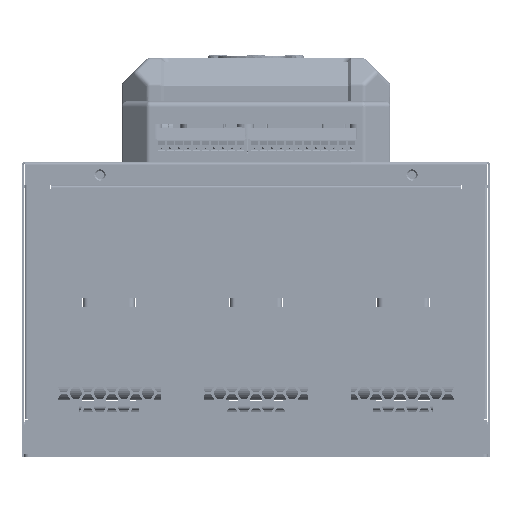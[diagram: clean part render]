
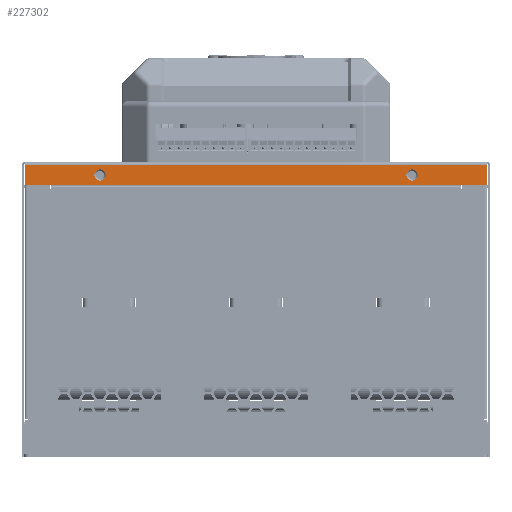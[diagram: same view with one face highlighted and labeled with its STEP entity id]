
A CAD part, front view. The second image highlights one B-rep face of the part: STEP entity #227302.
In plain terms, the highlighted planar face has unit normal (0, -1, 0).
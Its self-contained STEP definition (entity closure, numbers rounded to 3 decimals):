
#2345 = DIRECTION ( 'NONE',  ( 0., -1., 0. ) ) ;
#6429 = VERTEX_POINT ( 'NONE', #303719 ) ;
#41944 = AXIS2_PLACEMENT_3D ( 'NONE', #292692, #2345, #77261 ) ;
#45480 = VERTEX_POINT ( 'NONE', #100689 ) ;
#45824 = FACE_BOUND ( 'NONE', #190137, .T. ) ;
#50425 = CARTESIAN_POINT ( 'NONE',  ( 0., -195., 0. ) ) ;
#59933 = VECTOR ( 'NONE', #268113, 1000. ) ;
#61914 = VERTEX_POINT ( 'NONE', #252880 ) ;
#64822 = VECTOR ( 'NONE', #74926, 1000. ) ;
#66117 = DIRECTION ( 'NONE',  ( 1., 0., 0. ) ) ;
#69574 = EDGE_CURVE ( 'NONE', #45480, #95457, #188035, .T. ) ;
#69857 = CARTESIAN_POINT ( 'NONE',  ( -133.093, -195., -13.5 ) ) ;
#70697 = DIRECTION ( 'NONE',  ( 0., -1., 0. ) ) ;
#72935 = EDGE_CURVE ( 'NONE', #288949, #268656, #302584, .T. ) ;
#74926 = DIRECTION ( 'NONE',  ( 0., 0., -1. ) ) ;
#77261 = DIRECTION ( 'NONE',  ( 1., 0., 0. ) ) ;
#80010 = CARTESIAN_POINT ( 'NONE',  ( -133.093, -195., 0. ) ) ;
#92784 = CARTESIAN_POINT ( 'NONE',  ( 93.25, -195., -7.5 ) ) ;
#95187 = ORIENTED_EDGE ( 'NONE', *, *, #209465, .F. ) ;
#95457 = VERTEX_POINT ( 'NONE', #131464 ) ;
#96379 = ORIENTED_EDGE ( 'NONE', *, *, #304822, .F. ) ;
#100689 = CARTESIAN_POINT ( 'NONE',  ( -86.75, -195., -7.5 ) ) ;
#112032 = EDGE_CURVE ( 'NONE', #239121, #6429, #223660, .T. ) ;
#113095 = AXIS2_PLACEMENT_3D ( 'NONE', #154935, #228298, #131477 ) ;
#114536 = AXIS2_PLACEMENT_3D ( 'NONE', #50425, #264309, #240874 ) ;
#120228 = CARTESIAN_POINT ( 'NONE',  ( 133.093, -195., 0. ) ) ;
#130639 = CARTESIAN_POINT ( 'NONE',  ( 86.75, -195., -7.5 ) ) ;
#131464 = CARTESIAN_POINT ( 'NONE',  ( -93.25, -195., -7.5 ) ) ;
#131477 = DIRECTION ( 'NONE',  ( 1., 0., 0. ) ) ;
#154935 = CARTESIAN_POINT ( 'NONE',  ( -90., -195., -7.5 ) ) ;
#156875 = DIRECTION ( 'NONE',  ( 1., 0., 0. ) ) ;
#167144 = LINE ( 'NONE', #120228, #64822 ) ;
#167986 = AXIS2_PLACEMENT_3D ( 'NONE', #208221, #70697, #66117 ) ;
#173492 = CARTESIAN_POINT ( 'NONE',  ( -90., -195., -7.5 ) ) ;
#180333 = CARTESIAN_POINT ( 'NONE',  ( -133.3, -195., -1.7 ) ) ;
#187972 = FACE_BOUND ( 'NONE', #270937, .T. ) ;
#188035 = CIRCLE ( 'NONE', #113095, 3.25 ) ;
#188302 = ORIENTED_EDGE ( 'NONE', *, *, #216834, .F. ) ;
#189292 = EDGE_CURVE ( 'NONE', #61914, #239121, #218209, .T. ) ;
#190137 = EDGE_LOOP ( 'NONE', ( #206887, #188302 ) ) ;
#191519 = CIRCLE ( 'NONE', #41944, 3.25 ) ;
#204115 = ORIENTED_EDGE ( 'NONE', *, *, #205764, .F. ) ;
#205764 = EDGE_CURVE ( 'NONE', #6429, #227926, #225608, .T. ) ;
#206887 = ORIENTED_EDGE ( 'NONE', *, *, #69574, .F. ) ;
#208221 = CARTESIAN_POINT ( 'NONE',  ( 90., -195., -7.5 ) ) ;
#209465 = EDGE_CURVE ( 'NONE', #227926, #61914, #167144, .T. ) ;
#216834 = EDGE_CURVE ( 'NONE', #95457, #45480, #246155, .T. ) ;
#218209 = LINE ( 'NONE', #291531, #59933 ) ;
#219292 = VECTOR ( 'NONE', #156875, 1000. ) ;
#220566 = DIRECTION ( 'NONE',  ( 0., 0., 1. ) ) ;
#221017 = ORIENTED_EDGE ( 'NONE', *, *, #189292, .F. ) ;
#223660 = LINE ( 'NONE', #80010, #306095 ) ;
#225608 = LINE ( 'NONE', #180333, #219292 ) ;
#227302 = ADVANCED_FACE ( 'NONE', ( #239346, #45824, #187972 ), #306571, .F. ) ;
#227900 = CARTESIAN_POINT ( 'NONE',  ( 133.093, -195., -1.7 ) ) ;
#227926 = VERTEX_POINT ( 'NONE', #227900 ) ;
#228298 = DIRECTION ( 'NONE',  ( 0., -1., 0. ) ) ;
#239121 = VERTEX_POINT ( 'NONE', #69857 ) ;
#239346 = FACE_OUTER_BOUND ( 'NONE', #284197, .T. ) ;
#240874 = DIRECTION ( 'NONE',  ( 0., 0., 1. ) ) ;
#246155 = CIRCLE ( 'NONE', #301686, 3.25 ) ;
#252880 = CARTESIAN_POINT ( 'NONE',  ( 133.093, -195., -13.5 ) ) ;
#264309 = DIRECTION ( 'NONE',  ( 0., 1., 0. ) ) ;
#265126 = ORIENTED_EDGE ( 'NONE', *, *, #112032, .F. ) ;
#268113 = DIRECTION ( 'NONE',  ( -1., 0., 0. ) ) ;
#268656 = VERTEX_POINT ( 'NONE', #92784 ) ;
#270937 = EDGE_LOOP ( 'NONE', ( #96379, #301990 ) ) ;
#271770 = DIRECTION ( 'NONE',  ( 1., 0., 0. ) ) ;
#284197 = EDGE_LOOP ( 'NONE', ( #204115, #265126, #221017, #95187 ) ) ;
#288949 = VERTEX_POINT ( 'NONE', #130639 ) ;
#291531 = CARTESIAN_POINT ( 'NONE',  ( 0., -195., -13.5 ) ) ;
#292692 = CARTESIAN_POINT ( 'NONE',  ( 90., -195., -7.5 ) ) ;
#293643 = DIRECTION ( 'NONE',  ( 0., -1., 0. ) ) ;
#301686 = AXIS2_PLACEMENT_3D ( 'NONE', #173492, #293643, #271770 ) ;
#301990 = ORIENTED_EDGE ( 'NONE', *, *, #72935, .F. ) ;
#302584 = CIRCLE ( 'NONE', #167986, 3.25 ) ;
#303719 = CARTESIAN_POINT ( 'NONE',  ( -133.093, -195., -1.7 ) ) ;
#304822 = EDGE_CURVE ( 'NONE', #268656, #288949, #191519, .T. ) ;
#306095 = VECTOR ( 'NONE', #220566, 1000. ) ;
#306571 = PLANE ( 'NONE',  #114536 ) ;
